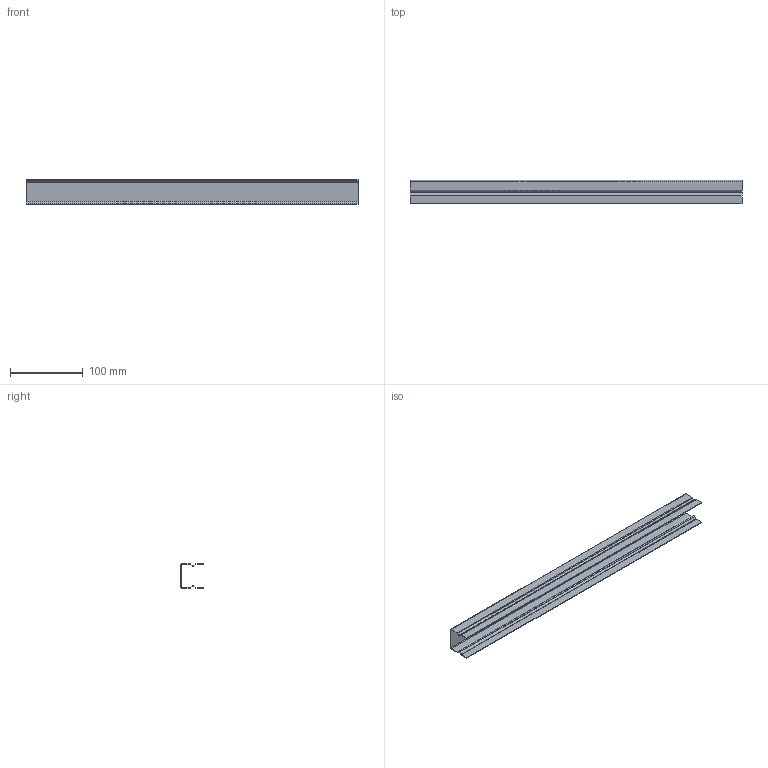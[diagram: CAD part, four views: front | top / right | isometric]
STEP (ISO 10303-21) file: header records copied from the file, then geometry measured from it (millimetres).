
FILE_DESCRIPTION (( 'STEP AP203' ), '1' );
FILE_NAME ('70-0274-00 REV 1, CABLE COVER, 24in RIGID, BLACK.STEP', '2017-01-25T17:49:08', ( '' ), ( '' ), 'SwSTEP 2.0', 'SolidWorks 2012', '' );
FILE_SCHEMA (( 'CONFIG_CONTROL_DESIGN' ));
Length unit declared in the file: inch
Products named in the file (1): 70-0274-00 REV 1, CABLE COVER, 24in RIGID, BLACK
Bounding box: 457.2 x 31.77 x 34.12 mm (x, y, z)
Volume: 41231.7 mm3; surface area: 91199.6 mm2
Topology: 1 solids, 1 shells, 70 faces, 140 edges, 72 vertices
Faces by surface type: plane 54, cylinder 16
Entity records: 1803 total; most frequent: DIRECTION 314, CARTESIAN_POINT 283, ORIENTED_EDGE 280, EDGE_CURVE 140, VECTOR 108, LINE 108, AXIS2_PLACEMENT_3D 103, VERTEX_POINT 72
